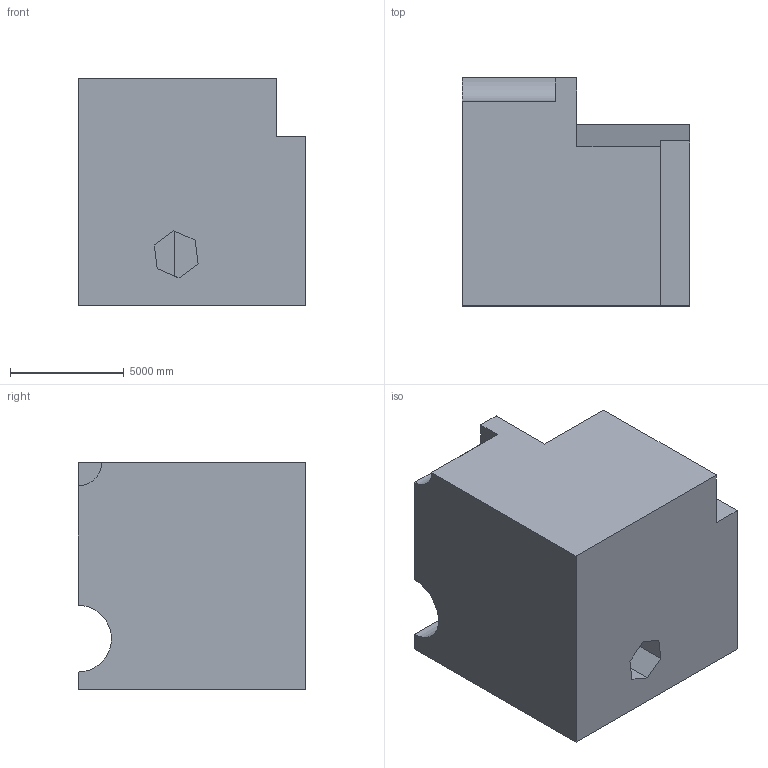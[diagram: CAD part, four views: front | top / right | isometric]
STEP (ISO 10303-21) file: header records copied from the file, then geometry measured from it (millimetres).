
FILE_DESCRIPTION (( 'STEP AP203' ), '1' );
FILE_NAME ('1559.STEP', '2022-08-18T15:47:46', ( 'user' ), ( '' ), 'SwSTEP 2.0', 'SolidWorks 2021', '' );
FILE_SCHEMA (( 'CONFIG_CONTROL_DESIGN' ));
Length unit declared in the file: centimetre
Products named in the file (1): 1559
Bounding box: 10000 x 10000 x 10000 mm (x, y, z)
Volume: 799800447694.2 mm3; surface area: 621850566.8 mm2
Topology: 1 solids, 1 shells, 26 faces, 72 edges, 48 vertices
Faces by surface type: plane 24, cylinder 2
Entity records: 901 total; most frequent: CARTESIAN_POINT 147, ORIENTED_EDGE 144, DIRECTION 130, EDGE_CURVE 72, VECTOR 68, LINE 68, VERTEX_POINT 48, AXIS2_PLACEMENT_3D 31
